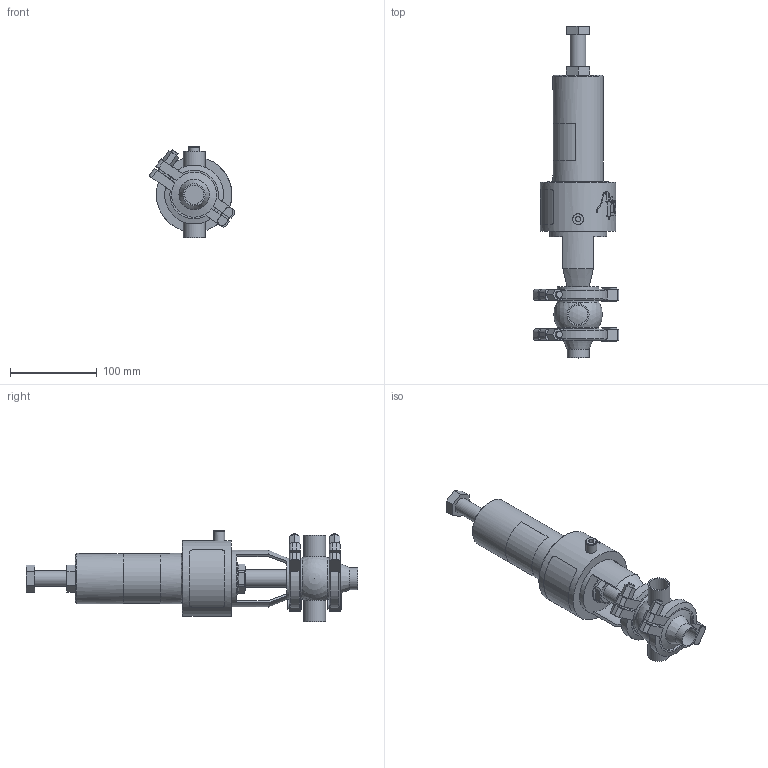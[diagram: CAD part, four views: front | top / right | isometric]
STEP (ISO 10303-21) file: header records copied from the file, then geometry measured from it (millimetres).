
FILE_DESCRIPTION (( 'STEP AP214' ), '1' );
FILE_NAME ('INNOVA J T W OD 1_10.245.16.0002.STEP', '2024-08-08T08:03:17', ( '' ), ( '' ), 'SwSTEP 2.0', 'SolidWorks 2023', '' );
FILE_SCHEMA (( 'AUTOMOTIVE_DESIGN' ));
Length unit declared in the file: millimetre
Products named in the file (6): 10.240.15.0007_OD 1"; 10.247.15.0001_OD 1"; 10.245.15.0001_T1 SE NC_DN 025; INNOVA J T W OD 1_10.245.16.0002; 10.240.15.0010_DN 025; 10.240.15.0001_DN 025
Assembly tree (6 placements, depth 2):
  INNOVA J T W OD 1_10.245.16.0002
    10.240.15.0007_OD 1"
    10.247.15.0001_OD 1"
    10.240.15.0010_DN 025
    10.245.15.0001_T1 SE NC_DN 025
    10.240.15.0001_DN 025  x2
Bounding box: 99.01 x 383 x 106 mm (x, y, z)
Volume: 940641.6 mm3; surface area: 140033.8 mm2
Topology: 6 solids, 6 shells, 386 faces, 1022 edges, 672 vertices
Faces by surface type: plane 191, cylinder 83, bspline 78, cone 30, sphere 3, torus 1
Full cylindrical faces by diameter (mm): 6.15 x1, 8 x4, 10.5 x1, 12.5 x2, 18 x1, 20 x1, 22.1 x3, 25.4 x3, 36.5 x1, 48 x3, 58 x1, 59.7 x4, 66 x1, 87 x1
Entity records: 19082 total; most frequent: CARTESIAN_POINT 9982, ORIENTED_EDGE 1610, DIRECTION 1225, EDGE_CURVE 805, VERTEX_POINT 552, AXIS2_PLACEMENT_3D 456, EDGE_LOOP 397, FACE_OUTER_BOUND 355
